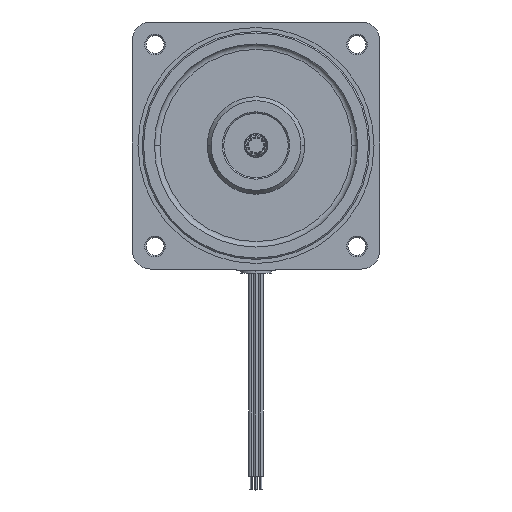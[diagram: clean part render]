
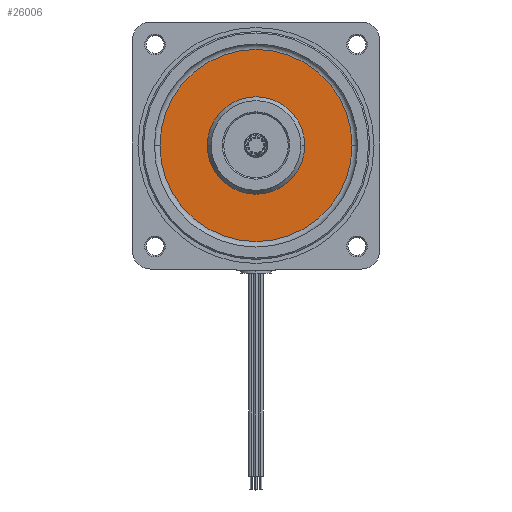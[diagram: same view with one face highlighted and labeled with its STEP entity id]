
A CAD part, top view. The second image highlights one B-rep face of the part: STEP entity #26006.
In plain terms, the highlighted planar face has unit normal (0, 0, 1).
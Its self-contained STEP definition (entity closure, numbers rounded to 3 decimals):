
#12514 = FACE_BOUND ( 'NONE', #26011, .T. ) ;
#12515 = FACE_OUTER_BOUND ( 'NONE', #26007, .T. ) ;
#12536 = CARTESIAN_POINT ( 'NONE',  ( 0., 0., 0. ) ) ;
#12537 = AXIS2_PLACEMENT_3D ( 'NONE', #12536, #12587, #12586 ) ;
#12538 = CIRCLE ( 'NONE', #12537, 17.75 ) ;
#12539 = DIRECTION ( 'NONE',  ( -1., 0., 0. ) ) ;
#12540 = DIRECTION ( 'NONE',  ( 0., 0., 1. ) ) ;
#12541 = CARTESIAN_POINT ( 'NONE',  ( 0., 0., 0. ) ) ;
#12542 = AXIS2_PLACEMENT_3D ( 'NONE', #12541, #12540, #12539 ) ;
#12543 = DIRECTION ( 'NONE',  ( -1., 0., 0. ) ) ;
#12544 = DIRECTION ( 'NONE',  ( 0., 0., -1. ) ) ;
#12545 = CARTESIAN_POINT ( 'NONE',  ( -38.5, 38.5, 0. ) ) ;
#12546 = AXIS2_PLACEMENT_3D ( 'NONE', #12545, #12544, #12543 ) ;
#12547 = CIRCLE ( 'NONE', #12542, 35. ) ;
#12548 = PLANE ( 'NONE',  #12546 ) ;
#12586 = DIRECTION ( 'NONE',  ( -1., 0., 0. ) ) ;
#12587 = DIRECTION ( 'NONE',  ( 0., 0., 1. ) ) ;
#16614 = CARTESIAN_POINT ( 'NONE',  ( 35., 0., 0. ) ) ;
#16671 = CARTESIAN_POINT ( 'NONE',  ( -35., 0., 0. ) ) ;
#16672 = DIRECTION ( 'NONE',  ( -1., 0., 0. ) ) ;
#16673 = DIRECTION ( 'NONE',  ( 0., 0., 1. ) ) ;
#16674 = CARTESIAN_POINT ( 'NONE',  ( 0., 0., 0. ) ) ;
#16675 = AXIS2_PLACEMENT_3D ( 'NONE', #16674, #16673, #16672 ) ;
#16676 = CIRCLE ( 'NONE', #16675, 35. ) ;
#16803 = CARTESIAN_POINT ( 'NONE',  ( -17.75, 0., 0. ) ) ;
#16804 = DIRECTION ( 'NONE',  ( -1., 0., 0. ) ) ;
#16805 = DIRECTION ( 'NONE',  ( 0., 0., 1. ) ) ;
#16806 = CARTESIAN_POINT ( 'NONE',  ( 0., 0., 0. ) ) ;
#16807 = AXIS2_PLACEMENT_3D ( 'NONE', #16806, #16805, #16804 ) ;
#16808 = CIRCLE ( 'NONE', #16807, 17.75 ) ;
#16809 = CARTESIAN_POINT ( 'NONE',  ( 17.75, 0., 0. ) ) ;
#26006 = ADVANCED_FACE ( 'NONE', ( #12515, #12514 ), #12548, .F. ) ;
#26007 = EDGE_LOOP ( 'NONE', ( #26008, #26009 ) ) ;
#26008 = ORIENTED_EDGE ( 'NONE', *, *, #27097, .T. ) ;
#26009 = ORIENTED_EDGE ( 'NONE', *, *, #26010, .T. ) ;
#26010 = EDGE_CURVE ( 'NONE', #27083, #27098, #12547, .T. ) ;
#26011 = EDGE_LOOP ( 'NONE', ( #26012, #26014 ) ) ;
#26012 = ORIENTED_EDGE ( 'NONE', *, *, #26013, .F. ) ;
#26013 = EDGE_CURVE ( 'NONE', #27151, #27148, #12538, .T. ) ;
#26014 = ORIENTED_EDGE ( 'NONE', *, *, #27150, .F. ) ;
#27083 = VERTEX_POINT ( 'NONE', #16614 ) ;
#27097 = EDGE_CURVE ( 'NONE', #27098, #27083, #16676, .T. ) ;
#27098 = VERTEX_POINT ( 'NONE', #16671 ) ;
#27148 = VERTEX_POINT ( 'NONE', #16809 ) ;
#27150 = EDGE_CURVE ( 'NONE', #27148, #27151, #16808, .T. ) ;
#27151 = VERTEX_POINT ( 'NONE', #16803 ) ;
